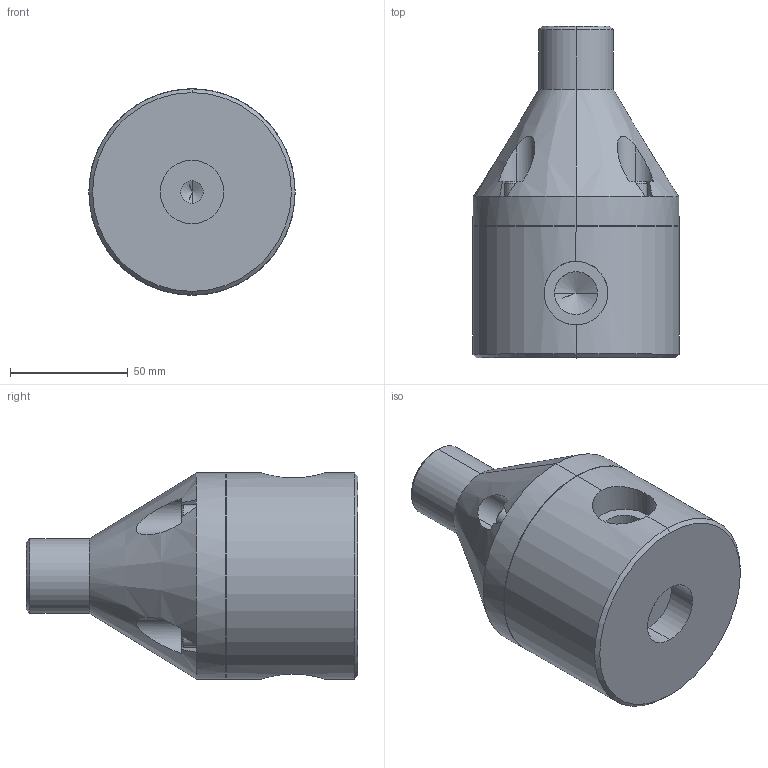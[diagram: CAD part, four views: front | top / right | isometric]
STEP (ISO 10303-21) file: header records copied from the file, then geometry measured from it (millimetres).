
FILE_DESCRIPTION (( 'STEP AP203' ), '1' );
FILE_NAME ('GPR0750-SOC.STEP', '2015-04-27T10:08:14', ( 'Dan Bernard' ), ( '' ), 'SwSTEP 2.0', 'SolidWorks 2008', '' );
FILE_SCHEMA (( 'CONFIG_CONTROL_DESIGN' ));
Length unit declared in the file: inch
Products named in the file (1): GPR0750-SOC
Bounding box: 87.63 x 140.97 x 87.63 mm (x, y, z)
Volume: 537683.4 mm3; surface area: 51034.9 mm2
Topology: 1 solids, 1 shells, 134 faces, 322 edges, 201 vertices
Faces by surface type: plane 72, cylinder 36, cone 24, torus 2
Entity records: 4309 total; most frequent: CARTESIAN_POINT 1096, DIRECTION 666, ORIENTED_EDGE 632, EDGE_CURVE 316, AXIS2_PLACEMENT_3D 237, VERTEX_POINT 201, VECTOR 192, LINE 192
